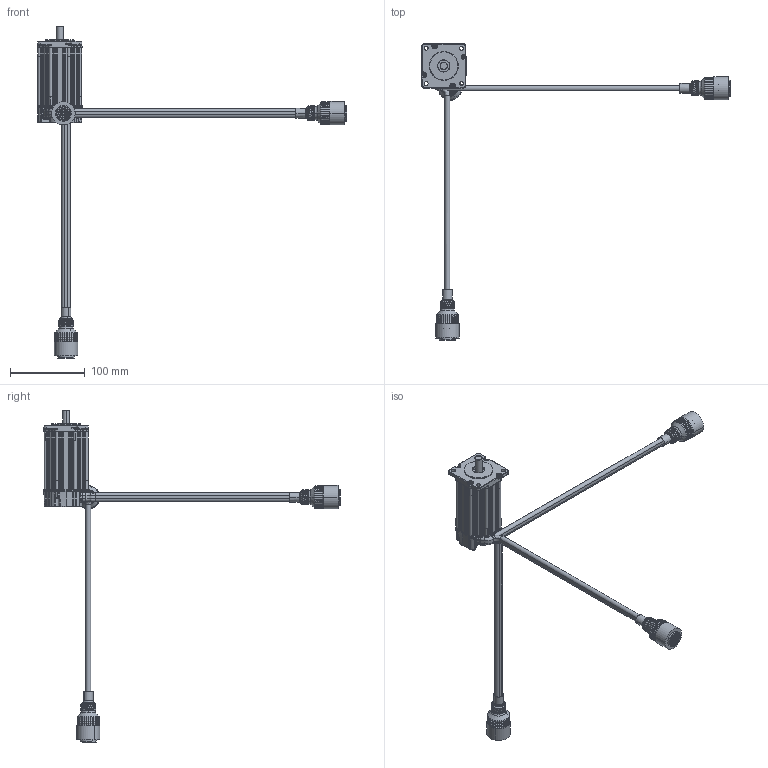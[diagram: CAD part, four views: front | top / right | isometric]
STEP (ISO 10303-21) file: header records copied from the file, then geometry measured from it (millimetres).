
FILE_DESCRIPTION (( 'STEP AP203' ), '1' );
FILE_NAME ('2331 for custormer.STEP', '2009-11-19T14:11:22', ( ' ' ), ( ' ' ), 'SwSTEP 2.0', 'SolidWorks 2007', '' );
FILE_SCHEMA (( 'CONFIG_CONTROL_DESIGN' ));
Length unit declared in the file: inch
Products named in the file (1): 2331 for custormer
Bounding box: 412.63 x 395.92 x 443.31 mm (x, y, z)
Volume: 352146.3 mm3; surface area: 164217.1 mm2
Topology: 21 solids, 22 shells, 3550 faces, 8149 edges, 4779 vertices
Faces by surface type: bspline 1383, cylinder 1196, plane 416, torus 324, cone 231
Entity records: 121980 total; most frequent: CARTESIAN_POINT 52101, ORIENTED_EDGE 16252, DIRECTION 13109, EDGE_CURVE 8126, AXIS2_PLACEMENT_3D 5534, VERTEX_POINT 4779, EDGE_LOOP 3763, ADVANCED_FACE 3550
